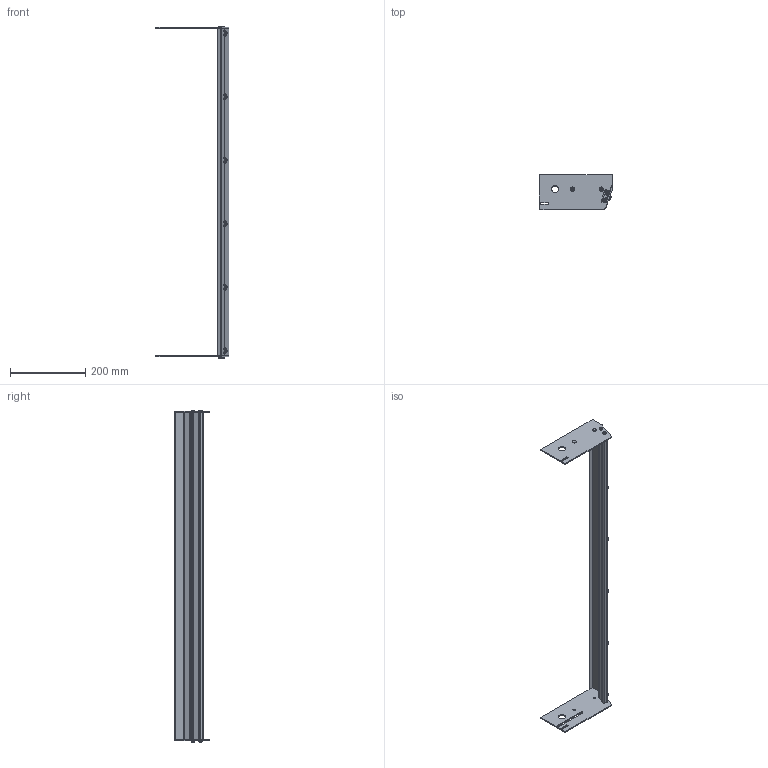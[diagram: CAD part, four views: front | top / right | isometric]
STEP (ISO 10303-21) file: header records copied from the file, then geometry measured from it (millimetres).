
FILE_DESCRIPTION((''),'2;1');
FILE_NAME('351199-34_ASM','2023-03-15T',('jenni.wallner'),(''),'PRO/ENGINEER BY PARAMETRIC TECHNOLOGY CORPORATION, 2012420','PRO/ENGINEER BY PARAMETRIC TECHNOLOGY CORPORATION, 2012420','');
FILE_SCHEMA(('CONFIG_CONTROL_DESIGN'));
Length unit declared in the file: inch
Products named in the file (10): 605279P; 351202-WW_351202-34; 990603M; 9505XXM_950512M; 351203-WW_351203-34; 351200_DEFAULT_AS_MACHINED_; 9506XXM_950612M; 351201; ASM0001_ASM; 351199-34_ASM
Assembly tree (27 placements, depth 3):
  351199-34_ASM
    ASM0001_ASM
      605279P  x6
      351202-WW_351202-34
      990603M  x6
      9505XXM_950512M  x4
      351203-WW_351203-34
      351200_DEFAULT_AS_MACHINED_
      9506XXM_950612M  x6
      351201
Bounding box: 196.11 x 93.08 x 882.69 mm (x, y, z)
Volume: 451811.8 mm3; surface area: 368807.2 mm2
Topology: 26 solids, 26 shells, 501 faces, 1181 edges, 752 vertices
Faces by surface type: plane 230, cylinder 171, cone 100
Entity records: 8400 total; most frequent: DIRECTION 1524, CARTESIAN_POINT 1524, ORIENTED_EDGE 1308, EDGE_CURVE 654, AXIS2_PLACEMENT_3D 577, VERTEX_POINT 428, VECTOR 370, LINE 370
